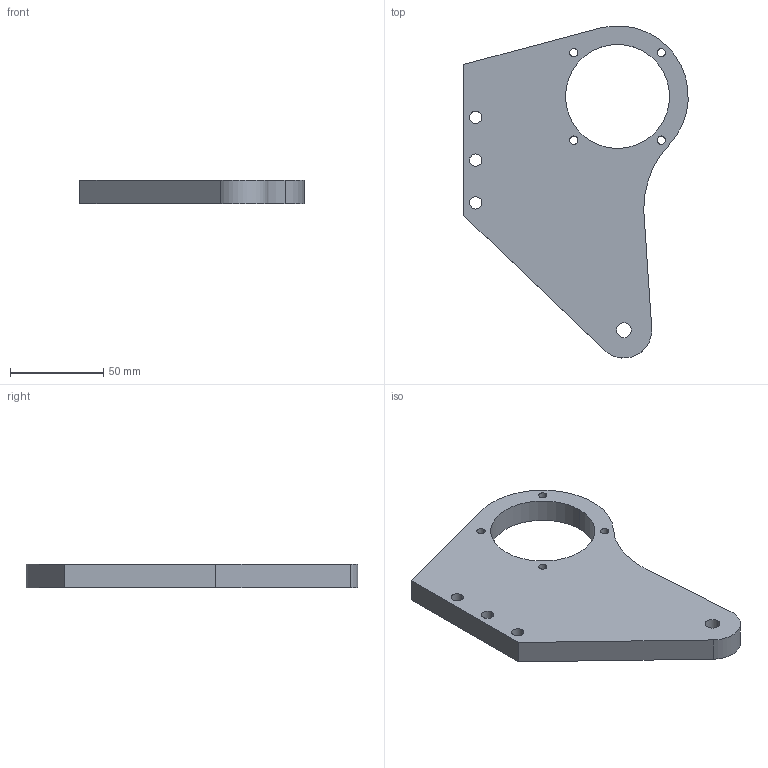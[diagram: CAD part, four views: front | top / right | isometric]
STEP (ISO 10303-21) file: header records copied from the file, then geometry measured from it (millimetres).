
FILE_DESCRIPTION (( 'STEP AP203' ), '1' );
FILE_NAME ('J2 motor support.STEP', '2017-07-26T00:30:51', ( '' ), ( '' ), 'SwSTEP 2.0', 'SolidWorks 2016', '' );
FILE_SCHEMA (( 'CONFIG_CONTROL_DESIGN' ));
Length unit declared in the file: millimetre
Products named in the file (1): J2 motor support
Bounding box: 120.49 x 178.43 x 12.7 mm (x, y, z)
Volume: 154116.4 mm3; surface area: 34634.7 mm2
Topology: 1 solids, 1 shells, 34 faces, 90 edges, 58 vertices
Faces by surface type: cylinder 22, cone 6, plane 6
Entity records: 1189 total; most frequent: DIRECTION 210, CARTESIAN_POINT 183, ORIENTED_EDGE 180, EDGE_CURVE 90, AXIS2_PLACEMENT_3D 85, VERTEX_POINT 58, EDGE_LOOP 52, CIRCLE 50
